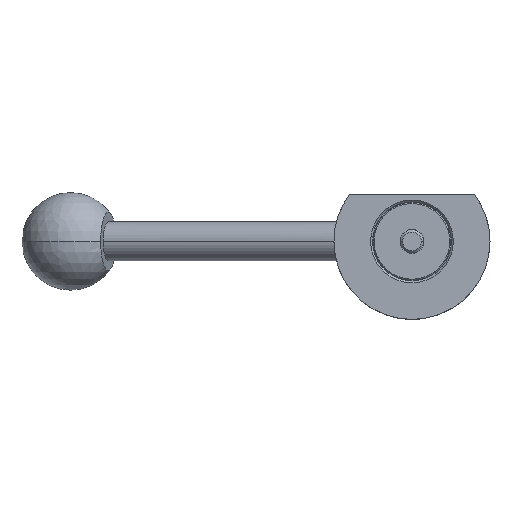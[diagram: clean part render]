
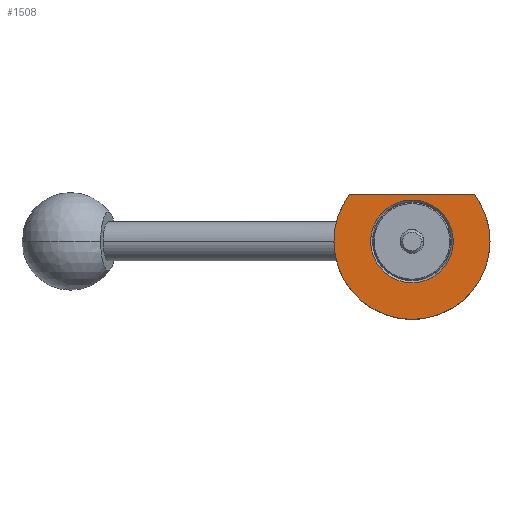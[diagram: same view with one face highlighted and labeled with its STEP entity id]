
A CAD part, front view. The second image highlights one B-rep face of the part: STEP entity #1508.
In plain terms, the highlighted planar face has unit normal (0, -1, 0).
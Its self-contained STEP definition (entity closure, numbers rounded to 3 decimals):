
#7 = EDGE_CURVE ( 'NONE', #1289, #1936, #1124, .T. ) ;
#42 = EDGE_CURVE ( 'NONE', #1936, #535, #1819, .T. ) ;
#47 = CARTESIAN_POINT ( 'NONE',  ( 0., -10., 0. ) ) ;
#53 = CIRCLE ( 'NONE', #2016, 10.6 ) ;
#82 = CIRCLE ( 'NONE', #1088, 10.6 ) ;
#123 = DIRECTION ( 'NONE',  ( 0., -1., 0. ) ) ;
#147 = VERTEX_POINT ( 'NONE', #1137 ) ;
#169 = CARTESIAN_POINT ( 'NONE',  ( -20., -10., 0. ) ) ;
#185 = DIRECTION ( 'NONE',  ( 0., 1., 0. ) ) ;
#201 = CARTESIAN_POINT ( 'NONE',  ( 10.6, -10., 0. ) ) ;
#213 = EDGE_LOOP ( 'NONE', ( #1586, #1776, #1492, #499 ) ) ;
#214 = DIRECTION ( 'NONE',  ( 0., 1., 0. ) ) ;
#277 = CARTESIAN_POINT ( 'NONE',  ( -10.6, -10., 0. ) ) ;
#307 = DIRECTION ( 'NONE',  ( 0., 1., 0. ) ) ;
#324 = AXIS2_PLACEMENT_3D ( 'NONE', #988, #185, #518 ) ;
#376 = CARTESIAN_POINT ( 'NONE',  ( 20., -10., 0. ) ) ;
#400 = CARTESIAN_POINT ( 'NONE',  ( -10.6, -10., 0. ) ) ;
#451 = ORIENTED_EDGE ( 'NONE', *, *, #1370, .T. ) ;
#499 = ORIENTED_EDGE ( 'NONE', *, *, #42, .F. ) ;
#518 = DIRECTION ( 'NONE',  ( -1., 0., 0. ) ) ;
#535 = VERTEX_POINT ( 'NONE', #169 ) ;
#547 = VERTEX_POINT ( 'NONE', #400 ) ;
#561 = DIRECTION ( 'NONE',  ( 0., 1., 0. ) ) ;
#589 = DIRECTION ( 'NONE',  ( 1., 0., 0. ) ) ;
#610 = DIRECTION ( 'NONE',  ( -1., 0., 0. ) ) ;
#636 = CIRCLE ( 'NONE', #992, 20. ) ;
#707 = VECTOR ( 'NONE', #1196, 1000. ) ;
#720 = DIRECTION ( 'NONE',  ( -1., 0., 0. ) ) ;
#837 = DIRECTION ( 'NONE',  ( -1., 0., 0. ) ) ;
#858 = EDGE_CURVE ( 'NONE', #1289, #147, #1364, .T. ) ;
#905 = FACE_BOUND ( 'NONE', #941, .T. ) ;
#941 = EDGE_LOOP ( 'NONE', ( #1932, #451 ) ) ;
#988 = CARTESIAN_POINT ( 'NONE',  ( 0., -10., 0. ) ) ;
#992 = AXIS2_PLACEMENT_3D ( 'NONE', #1346, #561, #720 ) ;
#1058 = CARTESIAN_POINT ( 'NONE',  ( -10.6, -10., 11.999 ) ) ;
#1088 = AXIS2_PLACEMENT_3D ( 'NONE', #1362, #307, #610 ) ;
#1107 = DIRECTION ( 'NONE',  ( 0., 1., 0. ) ) ;
#1124 = CIRCLE ( 'NONE', #324, 20. ) ;
#1137 = CARTESIAN_POINT ( 'NONE',  ( -16.001, -10., 11.999 ) ) ;
#1196 = DIRECTION ( 'NONE',  ( -1., 0., 0. ) ) ;
#1289 = VERTEX_POINT ( 'NONE', #1587 ) ;
#1346 = CARTESIAN_POINT ( 'NONE',  ( 0., -10., 0. ) ) ;
#1362 = CARTESIAN_POINT ( 'NONE',  ( 0., -10., 0. ) ) ;
#1363 = VERTEX_POINT ( 'NONE', #201 ) ;
#1364 = LINE ( 'NONE', #1058, #707 ) ;
#1370 = EDGE_CURVE ( 'NONE', #547, #1363, #53, .T. ) ;
#1438 = DIRECTION ( 'NONE',  ( -1., 0., 0. ) ) ;
#1492 = ORIENTED_EDGE ( 'NONE', *, *, #1601, .F. ) ;
#1508 = ADVANCED_FACE ( 'NONE', ( #905, #1520 ), #1998, .T. ) ;
#1520 = FACE_OUTER_BOUND ( 'NONE', #213, .T. ) ;
#1526 = EDGE_CURVE ( 'NONE', #1363, #547, #82, .T. ) ;
#1586 = ORIENTED_EDGE ( 'NONE', *, *, #7, .F. ) ;
#1587 = CARTESIAN_POINT ( 'NONE',  ( 16.001, -10., 11.999 ) ) ;
#1601 = EDGE_CURVE ( 'NONE', #535, #147, #636, .T. ) ;
#1761 = CARTESIAN_POINT ( 'NONE',  ( 0., -10., 0. ) ) ;
#1776 = ORIENTED_EDGE ( 'NONE', *, *, #858, .T. ) ;
#1819 = CIRCLE ( 'NONE', #1950, 20. ) ;
#1932 = ORIENTED_EDGE ( 'NONE', *, *, #1526, .T. ) ;
#1936 = VERTEX_POINT ( 'NONE', #376 ) ;
#1950 = AXIS2_PLACEMENT_3D ( 'NONE', #47, #214, #837 ) ;
#1979 = AXIS2_PLACEMENT_3D ( 'NONE', #277, #123, #589 ) ;
#1998 = PLANE ( 'NONE',  #1979 ) ;
#2016 = AXIS2_PLACEMENT_3D ( 'NONE', #1761, #1107, #1438 ) ;
